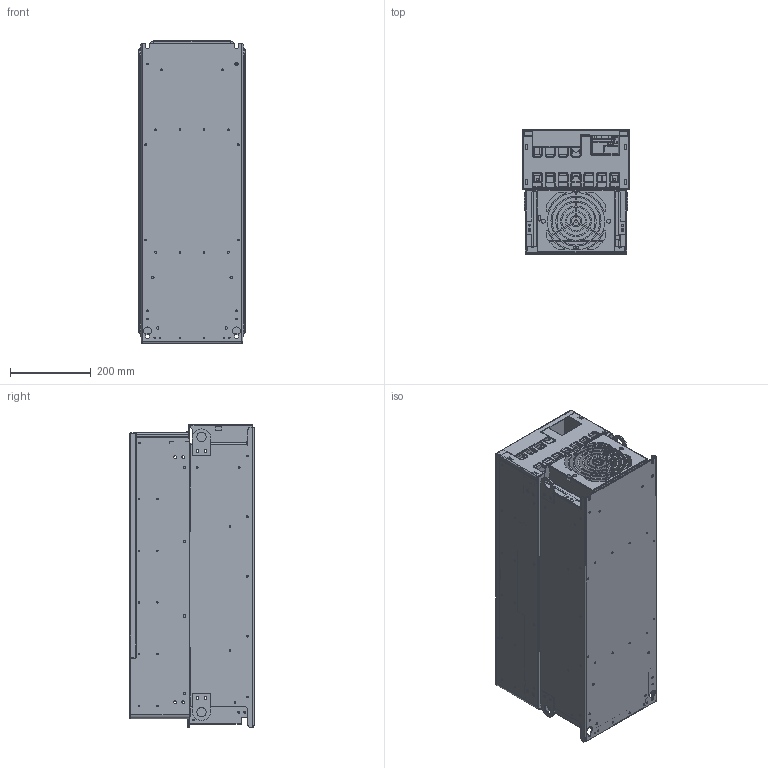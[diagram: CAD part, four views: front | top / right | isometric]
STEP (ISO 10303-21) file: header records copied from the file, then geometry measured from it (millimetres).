
FILE_DESCRIPTION(('STEP AP242'),'1');
FILE_NAME('atv610d75n4.stp','2020-10-28T04:36:52',('TraceParts'),('TraceParts S.A.'),'Spatial InterOp 3D',' ',' ');
FILE_SCHEMA(('AP242_MANAGED_MODEL_BASED_3D_ENGINEERING_MIM_LF {1 0 10303 442 1 1 4}'));
Length unit declared in the file: millimetre
Products named in the file (1): atv610d75n4_1
Bounding box: 265 x 306.85 x 748 mm (x, y, z)
Volume: 2543304.3 mm3; surface area: 2765278.1 mm2
Topology: 36 solids, 36 shells, 3324 faces, 9319 edges, 6042 vertices
Faces by surface type: plane 2106, cylinder 1022, cone 73, torus 68, bspline 27, sphere 20, extrusion 8
Entity records: 115271 total; most frequent: CARTESIAN_POINT 26544, ORIENTED_EDGE 18638, DIRECTION 18137, EDGE_CURVE 9319, VECTOR 6909, LINE 6901, VERTEX_POINT 6042, AXIS2_PLACEMENT_3D 5614
